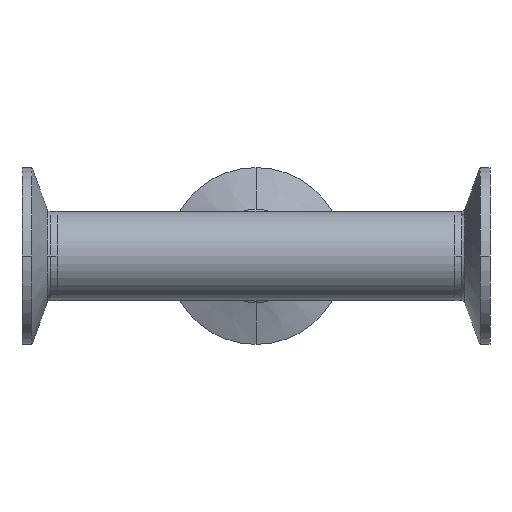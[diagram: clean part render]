
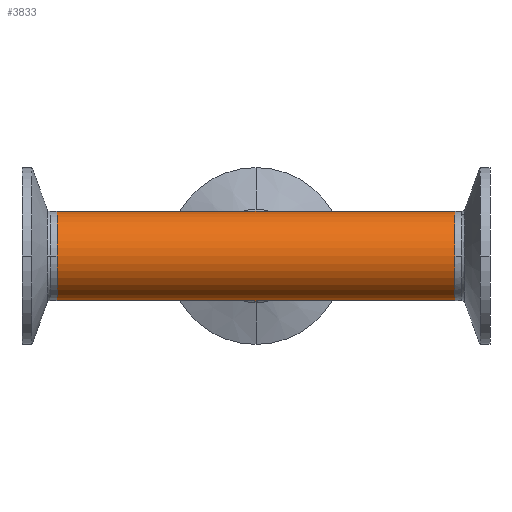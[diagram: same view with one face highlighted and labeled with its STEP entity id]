
A CAD part, front view. The second image highlights one B-rep face of the part: STEP entity #3833.
In plain terms, the highlighted cylindrical face has radius 12.7 mm (diameter 25.4 mm), a partial arc.
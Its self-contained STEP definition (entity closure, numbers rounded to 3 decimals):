
#19 = ORIENTED_EDGE ( 'NONE', *, *, #422, .T. ) ;
#64 = VERTEX_POINT ( 'NONE', #949 ) ;
#91 = VECTOR ( 'NONE', #2701, 1000. ) ;
#108 = ORIENTED_EDGE ( 'NONE', *, *, #1831, .T. ) ;
#189 = DIRECTION ( 'NONE',  ( -1., 0., 0. ) ) ;
#241 = EDGE_CURVE ( 'NONE', #3933, #3511, #1124, .T. ) ;
#358 = CARTESIAN_POINT ( 'NONE',  ( 56.7, 0., 0. ) ) ;
#422 = EDGE_CURVE ( 'NONE', #64, #2216, #2057, .T. ) ;
#445 = CARTESIAN_POINT ( 'NONE',  ( -56.7, 0., 0. ) ) ;
#447 = DIRECTION ( 'NONE',  ( -1., 0., 0. ) ) ;
#466 = DIRECTION ( 'NONE',  ( 1., 0., 0. ) ) ;
#495 = DIRECTION ( 'NONE',  ( 0., 0., 1. ) ) ;
#559 = CARTESIAN_POINT ( 'NONE',  ( -56.7, 0., -12.7 ) ) ;
#574 = CARTESIAN_POINT ( 'NONE',  ( 92.621, 0., 12.7 ) ) ;
#764 = VERTEX_POINT ( 'NONE', #1682 ) ;
#768 = LINE ( 'NONE', #4326, #1563 ) ;
#816 = LINE ( 'NONE', #2228, #3399 ) ;
#850 = ORIENTED_EDGE ( 'NONE', *, *, #871, .T. ) ;
#871 = EDGE_CURVE ( 'NONE', #1870, #3511, #2724, .T. ) ;
#949 = CARTESIAN_POINT ( 'NONE',  ( 56.7, 0., -12.7 ) ) ;
#1124 = LINE ( 'NONE', #1136, #91 ) ;
#1136 = CARTESIAN_POINT ( 'NONE',  ( 92.621, 0., -12.7 ) ) ;
#1324 = LINE ( 'NONE', #574, #3755 ) ;
#1563 = VECTOR ( 'NONE', #1679, 1000. ) ;
#1641 = ORIENTED_EDGE ( 'NONE', *, *, #241, .F. ) ;
#1679 = DIRECTION ( 'NONE',  ( -1., 0., 0. ) ) ;
#1682 = CARTESIAN_POINT ( 'NONE',  ( 0., 0., 12.7 ) ) ;
#1781 = CARTESIAN_POINT ( 'NONE',  ( -56.7, 0., 12.7 ) ) ;
#1831 = EDGE_CURVE ( 'NONE', #764, #1870, #768, .T. ) ;
#1870 = VERTEX_POINT ( 'NONE', #1781 ) ;
#1896 = ORIENTED_EDGE ( 'NONE', *, *, #4303, .T. ) ;
#2057 = CIRCLE ( 'NONE', #3148, 12.7 ) ;
#2216 = VERTEX_POINT ( 'NONE', #2958 ) ;
#2228 = CARTESIAN_POINT ( 'NONE',  ( 92.621, 0., -12.7 ) ) ;
#2260 = FACE_OUTER_BOUND ( 'NONE', #3197, .T. ) ;
#2399 = DIRECTION ( 'NONE',  ( 0., 0., 1. ) ) ;
#2701 = DIRECTION ( 'NONE',  ( -1., 0., 0. ) ) ;
#2724 = CIRCLE ( 'NONE', #3289, 12.7 ) ;
#2783 = DIRECTION ( 'NONE',  ( 0., 0., 1. ) ) ;
#2794 = ORIENTED_EDGE ( 'NONE', *, *, #3130, .F. ) ;
#2911 = DIRECTION ( 'NONE',  ( -1., 0., 0. ) ) ;
#2958 = CARTESIAN_POINT ( 'NONE',  ( 56.7, 0., 12.7 ) ) ;
#3072 = DIRECTION ( 'NONE',  ( -1., 0., 0. ) ) ;
#3130 = EDGE_CURVE ( 'NONE', #64, #3933, #816, .T. ) ;
#3148 = AXIS2_PLACEMENT_3D ( 'NONE', #358, #447, #2783 ) ;
#3197 = EDGE_LOOP ( 'NONE', ( #2794, #19, #1896, #108, #850, #1641 ) ) ;
#3289 = AXIS2_PLACEMENT_3D ( 'NONE', #445, #466, #495 ) ;
#3305 = AXIS2_PLACEMENT_3D ( 'NONE', #3706, #3072, #2399 ) ;
#3399 = VECTOR ( 'NONE', #189, 1000. ) ;
#3511 = VERTEX_POINT ( 'NONE', #559 ) ;
#3706 = CARTESIAN_POINT ( 'NONE',  ( 92.621, 0., 0. ) ) ;
#3736 = CARTESIAN_POINT ( 'NONE',  ( 0., 0., -12.7 ) ) ;
#3755 = VECTOR ( 'NONE', #2911, 1000. ) ;
#3833 = ADVANCED_FACE ( 'NONE', ( #2260 ), #3912, .T. ) ;
#3912 = CYLINDRICAL_SURFACE ( 'NONE', #3305, 12.7 ) ;
#3933 = VERTEX_POINT ( 'NONE', #3736 ) ;
#4303 = EDGE_CURVE ( 'NONE', #2216, #764, #1324, .T. ) ;
#4326 = CARTESIAN_POINT ( 'NONE',  ( 92.621, 0., 12.7 ) ) ;
